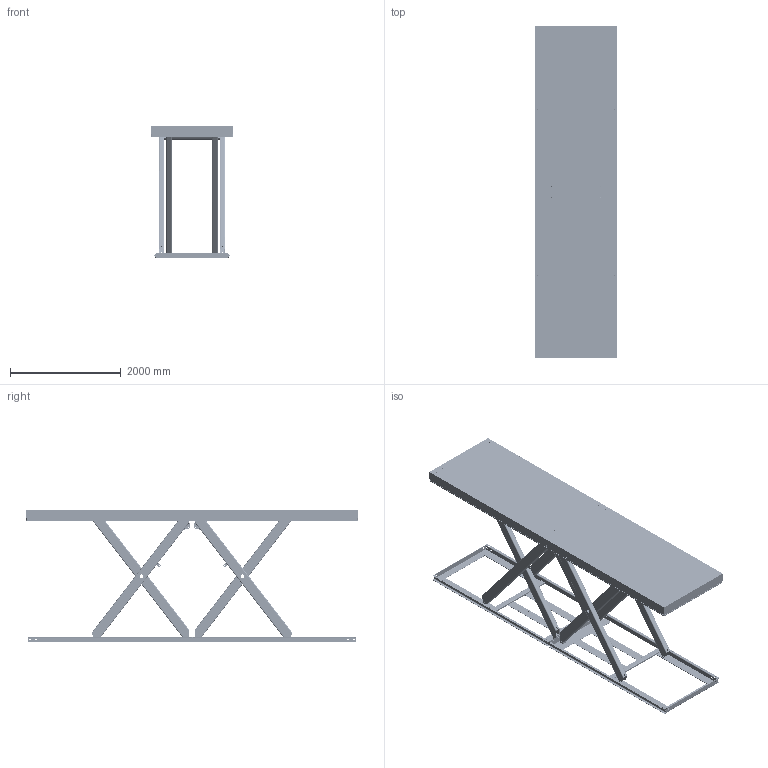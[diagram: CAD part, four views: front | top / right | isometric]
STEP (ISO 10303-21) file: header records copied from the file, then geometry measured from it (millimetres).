
FILE_DESCRIPTION(/* description */ (''),/* implementation_level */ '2;1');
FILE_NAME(/* name */ 'C:\Autodesk_VaultWork\Ritningar\500000-599999\510000-519999\516158_Raised.stp',/* time_stamp */ '2020-10-27T14:59:31+01:00',/* author */ ('johso'),/* organization */ (''),/* preprocessor_version */ 'ST-DEVELOPER v16.5',/* originating_system */ 'Autodesk Inventor 2017',/* authorisation */ '');
FILE_SCHEMA (('AUTOMOTIVE_DESIGN { 1 0 10303 214 3 1 1 }'));
Products named in the file (56): 516158.tmp; 614153; 514565; 514568-1; 515594-2; 515594-1; 514568-2; 600366; 41333-1300; 514568-3; 614154; 614155; ISO 4017 - M10 x 35; 614156; 82091 - 100; 83209; 83241; 514567; 514571; 614160; 614161; 42565; 514567_1; 514572; 80030 - 1000; 35435-4; 35435-3; 514571_1; 514577; 80030 - 738; 614165; 614166; 614162; 614164; 614163; 608316; 614028; 41333-2936; 41333-198; 41333-492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
Assembly tree (205 placements, depth 4):
  516158.tmp
    614153
      514565  x2
        514568-1
        515594-2
        515594-1
        42565
        514568-2
        600366
        41333-1300
        514568-3
      614154  x2
      614155  x4
      ISO 4017 - M10 x 35  x8
      83209  x10
      614156  x2
        82091 - 100
      83241  x2
    514567
      514572
        514577  x2
        80030 - 1000
        35435-4  x2
        35435-3  x4
      514571
        514577  x2
        80030 - 738
    614160
      614161
      614162  x2
      614164
      614163
      608316  x2
      614028
      42565  x2
      41333-2936  x2
      41333-198  x3
      41333-492  x4
      614029  x2
      83212  x6
      85955  x4
      80131
      45387  x5
    514567_1
      514572
        514577  x2
        80030 - 1000
        35435-4  x2
        35435-3  x4
      514571_1
        514577  x2
        80030 - 738
    614165
      614166
      614162  x2
      614164
      614163
      608316  x2
      614028
      41333-2936  x2
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Bounding box: 1500 x 6000 x 2400 mm (x, y, z)
Volume: 220212749.8 mm3; surface area: 75498266.8 mm2
Topology: 212 solids, 236 shells, 15482 faces, 42502 edges, 27966 vertices
Faces by surface type: plane 8366, cylinder 4844, bspline 1476, cone 586, torus 210
Full cylindrical faces by diameter (mm): 0.474 x6, 1 x12, 3 x12, 3.141 x12, 3.2 x12, 4 x48, 4.3 x12, 4.9 x6, 5 x28, 5.2 x18, 5.3 x6, 5.6 x8, 6.647 x14, 7.4 x32, 7.6 x12, 8 x42, 8.376 x10, 8.5 x14, 9 x8, 10 x36, 10.5 x14, 11 x26, 11.6 x14, 11.63 x14, 12 x8, 12.5 x20, 13 x8, 13.835 x40, 14.6 x10, 14.63 x10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
Entity records: 144732 total; most frequent: CARTESIAN_POINT 32382, ORIENTED_EDGE 22934, DIRECTION 22457, EDGE_CURVE 11461, VERTEX_POINT 7688, LINE 7647, VECTOR 7647, AXIS2_PLACEMENT_3D 7405
